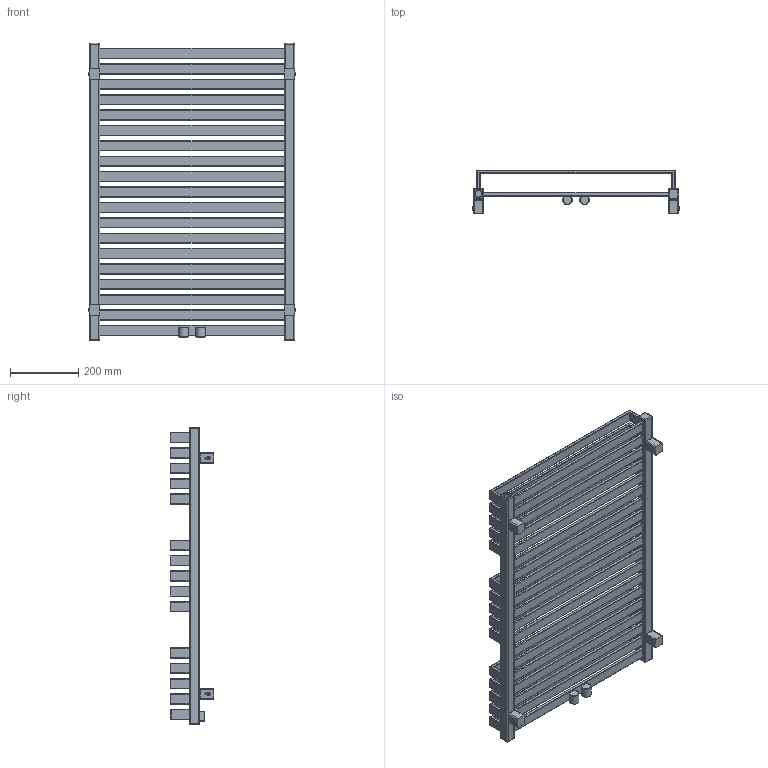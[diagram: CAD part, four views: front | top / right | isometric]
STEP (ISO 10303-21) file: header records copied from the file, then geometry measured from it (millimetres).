
FILE_DESCRIPTION((''),'2;1');
FILE_NAME('Z:\R\G\P\RGP093 - Grzejnik Quadrus Bold 2012\Work\Inventor\Marketing\Modele AutoCAD\QBA-870-600 Z8.stp','2012-07-02T07:50:18',('KurKa'),(''),'Autodesk Inventor 2012','Autodesk Inventor 2012','');
FILE_SCHEMA(('AUTOMOTIVE_DESIGN { 1 0 10303 214 1 1 1 1 }'));
Length unit declared in the file: millimetre
Products named in the file (3): QBA-870-600 Z8; MMT42_marketing
Assembly tree (5 placements, depth 2):
  QBA-870-600 Z8
    QBA-870-600 Z8
    MMT42_marketing  x4
Bounding box: 606 x 127 x 870 mm (x, y, z)
Volume: 7766535.8 mm3; surface area: 1792541.4 mm2
Topology: 5 solids, 5 shells, 714 faces, 1848 edges, 1158 vertices
Faces by surface type: cylinder 338, plane 316, cone 30, sphere 16, torus 10, bspline 4
Full cylindrical faces by diameter (mm): 4.509 x4, 12 x4, 18.631 x4, 28 x2
Entity records: 18151 total; most frequent: CARTESIAN_POINT 3451, DIRECTION 3154, ORIENTED_EDGE 2978, EDGE_CURVE 1489, AXIS2_PLACEMENT_3D 1094, VECTOR 966, LINE 966, VERTEX_POINT 939
